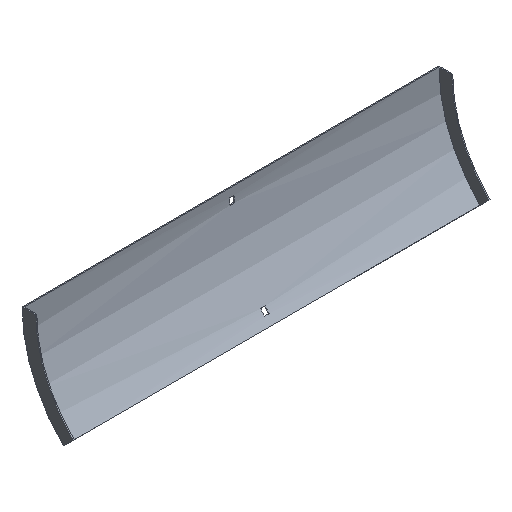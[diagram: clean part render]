
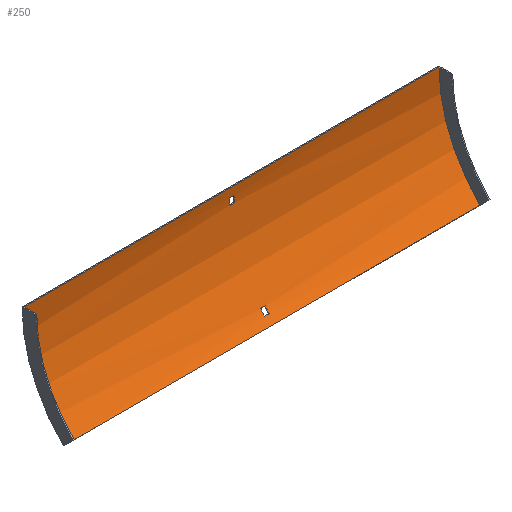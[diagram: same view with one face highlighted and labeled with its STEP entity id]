
A CAD part, isometric view. The second image highlights one B-rep face of the part: STEP entity #250.
In plain terms, the highlighted cylindrical face has radius 204 mm (diameter 408 mm), a partial arc.
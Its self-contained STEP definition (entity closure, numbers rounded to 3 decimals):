
#1 = ORIENTED_EDGE ( 'NONE', *, *, #118, .T. ) ;
#4 = CIRCLE ( 'NONE', #506, 204. ) ;
#9 = VERTEX_POINT ( 'NONE', #188 ) ;
#10 = EDGE_CURVE ( 'NONE', #9, #287, #170, .T. ) ;
#14 = VERTEX_POINT ( 'NONE', #202 ) ;
#20 = AXIS2_PLACEMENT_3D ( 'NONE', #457, #224, #415 ) ;
#24 = AXIS2_PLACEMENT_3D ( 'NONE', #418, #548, #268 ) ;
#25 = EDGE_LOOP ( 'NONE', ( #394, #240, #432, #199 ) ) ;
#32 = VECTOR ( 'NONE', #502, 1000. ) ;
#34 = DIRECTION ( 'NONE',  ( 1., 0., 0. ) ) ;
#38 = DIRECTION ( 'NONE',  ( 0., 0., 1. ) ) ;
#45 = ORIENTED_EDGE ( 'NONE', *, *, #352, .F. ) ;
#46 = VERTEX_POINT ( 'NONE', #375 ) ;
#56 = CIRCLE ( 'NONE', #131, 204. ) ;
#73 = LINE ( 'NONE', #172, #527 ) ;
#75 = CARTESIAN_POINT ( 'NONE',  ( 302., -61.25, -144.25 ) ) ;
#77 = ORIENTED_EDGE ( 'NONE', *, *, #491, .F. ) ;
#84 = LINE ( 'NONE', #584, #108 ) ;
#85 = VERTEX_POINT ( 'NONE', #442 ) ;
#86 = DIRECTION ( 'NONE',  ( 1., 0., 0. ) ) ;
#90 = CARTESIAN_POINT ( 'NONE',  ( 303.5, -1.853, -12. ) ) ;
#98 = CARTESIAN_POINT ( 'NONE',  ( -3.25, -53.015, -135.515 ) ) ;
#105 = DIRECTION ( 'NONE',  ( -1., 0., 0. ) ) ;
#108 = VECTOR ( 'NONE', #497, 1000. ) ;
#114 = DIRECTION ( 'NONE',  ( -1., 0., 0. ) ) ;
#118 = EDGE_CURVE ( 'NONE', #486, #438, #444, .T. ) ;
#120 = EDGE_CURVE ( 'NONE', #449, #382, #84, .T. ) ;
#124 = CARTESIAN_POINT ( 'NONE',  ( 302., -1.5, 0. ) ) ;
#131 = AXIS2_PLACEMENT_3D ( 'NONE', #532, #114, #258 ) ;
#133 = DIRECTION ( 'NONE',  ( 0., 0., 1. ) ) ;
#134 = EDGE_CURVE ( 'NONE', #486, #526, #318, .T. ) ;
#142 = EDGE_CURVE ( 'NONE', #287, #46, #263, .T. ) ;
#143 = EDGE_LOOP ( 'NONE', ( #399, #45, #465, #470 ) ) ;
#156 = EDGE_CURVE ( 'NONE', #46, #85, #4, .T. ) ;
#162 = EDGE_CURVE ( 'NONE', #438, #14, #73, .T. ) ;
#170 = CIRCLE ( 'NONE', #257, 204. ) ;
#172 = CARTESIAN_POINT ( 'NONE',  ( 302., -1.5, 0. ) ) ;
#185 = DIRECTION ( 'NONE',  ( -1., 0., 0. ) ) ;
#188 = CARTESIAN_POINT ( 'NONE',  ( -3.25, -1.853, -12. ) ) ;
#189 = CARTESIAN_POINT ( 'NONE',  ( 303.5, -53.015, -135.515 ) ) ;
#193 = FACE_OUTER_BOUND ( 'NONE', #489, .T. ) ;
#199 = ORIENTED_EDGE ( 'NONE', *, *, #567, .T. ) ;
#202 = CARTESIAN_POINT ( 'NONE',  ( -302., -1.5, 0. ) ) ;
#224 = DIRECTION ( 'NONE',  ( 1., 0., 0. ) ) ;
#234 = AXIS2_PLACEMENT_3D ( 'NONE', #249, #105, #236 ) ;
#236 = DIRECTION ( 'NONE',  ( 0., 0., 1. ) ) ;
#240 = ORIENTED_EDGE ( 'NONE', *, *, #463, .T. ) ;
#246 = FACE_BOUND ( 'NONE', #25, .T. ) ;
#249 = CARTESIAN_POINT ( 'NONE',  ( 303.5, -205.5, 0. ) ) ;
#250 = ADVANCED_FACE ( 'NONE', ( #435, #193, #246 ), #283, .F. ) ;
#254 = VERTEX_POINT ( 'NONE', #425 ) ;
#257 = AXIS2_PLACEMENT_3D ( 'NONE', #372, #275, #38 ) ;
#258 = DIRECTION ( 'NONE',  ( 0., 0., 1. ) ) ;
#259 = EDGE_CURVE ( 'NONE', #254, #436, #512, .T. ) ;
#263 = LINE ( 'NONE', #509, #450 ) ;
#268 = DIRECTION ( 'NONE',  ( 0., 0., -1. ) ) ;
#275 = DIRECTION ( 'NONE',  ( -1., 0., 0. ) ) ;
#279 = DIRECTION ( 'NONE',  ( -1., 0., 0. ) ) ;
#283 = CYLINDRICAL_SURFACE ( 'NONE', #234, 204. ) ;
#287 = VERTEX_POINT ( 'NONE', #565 ) ;
#306 = VECTOR ( 'NONE', #279, 1000. ) ;
#316 = CARTESIAN_POINT ( 'NONE',  ( -302., -61.25, -144.25 ) ) ;
#318 = LINE ( 'NONE', #75, #32 ) ;
#320 = DIRECTION ( 'NONE',  ( -1., 0., 0. ) ) ;
#328 = LINE ( 'NONE', #90, #306 ) ;
#352 = EDGE_CURVE ( 'NONE', #85, #9, #328, .T. ) ;
#372 = CARTESIAN_POINT ( 'NONE',  ( -3.25, -205.5, 0. ) ) ;
#375 = CARTESIAN_POINT ( 'NONE',  ( 3.25, -2.584, -21. ) ) ;
#382 = VERTEX_POINT ( 'NONE', #490 ) ;
#394 = ORIENTED_EDGE ( 'NONE', *, *, #259, .T. ) ;
#399 = ORIENTED_EDGE ( 'NONE', *, *, #10, .F. ) ;
#412 = DIRECTION ( 'NONE',  ( 1., 0., 0. ) ) ;
#415 = DIRECTION ( 'NONE',  ( 0., 0., 1. ) ) ;
#418 = CARTESIAN_POINT ( 'NONE',  ( -3.25, -205.5, 0. ) ) ;
#425 = CARTESIAN_POINT ( 'NONE',  ( 3.25, -53.015, -135.515 ) ) ;
#432 = ORIENTED_EDGE ( 'NONE', *, *, #120, .T. ) ;
#435 = FACE_BOUND ( 'NONE', #143, .T. ) ;
#436 = VERTEX_POINT ( 'NONE', #98 ) ;
#438 = VERTEX_POINT ( 'NONE', #124 ) ;
#442 = CARTESIAN_POINT ( 'NONE',  ( 3.25, -1.853, -12. ) ) ;
#444 = CIRCLE ( 'NONE', #588, 204. ) ;
#449 = VERTEX_POINT ( 'NONE', #596 ) ;
#450 = VECTOR ( 'NONE', #86, 1000. ) ;
#452 = DIRECTION ( 'NONE',  ( 0., 0., -1. ) ) ;
#457 = CARTESIAN_POINT ( 'NONE',  ( -302., -205.5, 0. ) ) ;
#463 = EDGE_CURVE ( 'NONE', #436, #449, #552, .T. ) ;
#465 = ORIENTED_EDGE ( 'NONE', *, *, #156, .F. ) ;
#470 = ORIENTED_EDGE ( 'NONE', *, *, #142, .F. ) ;
#486 = VERTEX_POINT ( 'NONE', #508 ) ;
#489 = EDGE_LOOP ( 'NONE', ( #77, #585, #1, #522 ) ) ;
#490 = CARTESIAN_POINT ( 'NONE',  ( 3.25, -47.167, -128.634 ) ) ;
#491 = EDGE_CURVE ( 'NONE', #526, #14, #529, .T. ) ;
#494 = VECTOR ( 'NONE', #320, 1000. ) ;
#497 = DIRECTION ( 'NONE',  ( 1., 0., 0. ) ) ;
#502 = DIRECTION ( 'NONE',  ( -1., 0., 0. ) ) ;
#506 = AXIS2_PLACEMENT_3D ( 'NONE', #590, #34, #452 ) ;
#508 = CARTESIAN_POINT ( 'NONE',  ( 302., -61.25, -144.25 ) ) ;
#509 = CARTESIAN_POINT ( 'NONE',  ( 303.5, -2.584, -21. ) ) ;
#512 = LINE ( 'NONE', #189, #494 ) ;
#522 = ORIENTED_EDGE ( 'NONE', *, *, #162, .T. ) ;
#526 = VERTEX_POINT ( 'NONE', #316 ) ;
#527 = VECTOR ( 'NONE', #185, 1000. ) ;
#529 = CIRCLE ( 'NONE', #20, 204. ) ;
#532 = CARTESIAN_POINT ( 'NONE',  ( 3.25, -205.5, 0. ) ) ;
#545 = CARTESIAN_POINT ( 'NONE',  ( 302., -205.5, 0. ) ) ;
#548 = DIRECTION ( 'NONE',  ( 1., 0., 0. ) ) ;
#552 = CIRCLE ( 'NONE', #24, 204. ) ;
#565 = CARTESIAN_POINT ( 'NONE',  ( -3.25, -2.584, -21. ) ) ;
#567 = EDGE_CURVE ( 'NONE', #382, #254, #56, .T. ) ;
#584 = CARTESIAN_POINT ( 'NONE',  ( 303.5, -47.167, -128.634 ) ) ;
#585 = ORIENTED_EDGE ( 'NONE', *, *, #134, .F. ) ;
#588 = AXIS2_PLACEMENT_3D ( 'NONE', #545, #412, #133 ) ;
#590 = CARTESIAN_POINT ( 'NONE',  ( 3.25, -205.5, 0. ) ) ;
#596 = CARTESIAN_POINT ( 'NONE',  ( -3.25, -47.167, -128.634 ) ) ;
